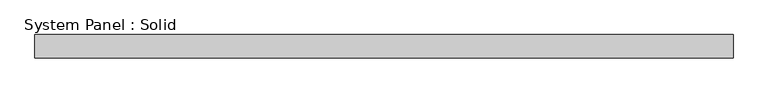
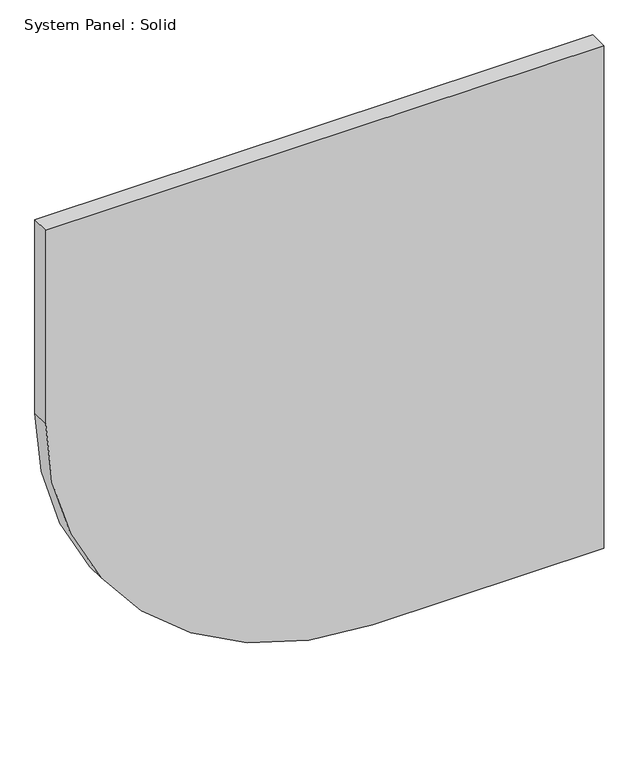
"""IFC4 building model written with IfcOpenShell, lengths in millimetres: plate geometry, System Panel : Solid."""

from ifc_helpers import new_model, si_unit, point, frame, frame_2d, origin, place, context, project, spatial, polyline, circle_curve, trimmed, segment, composite_curve, outline, extrude, source, transform, mapped, element, save


def system_panel_solid_5cfdd452(model_context):
    return source(origin(), model_context, "Body", "SweptSolid", [
        extrude(outline(composite_curve([segment(polyline([(0.0, 89.9999998), (0.0, 525.0000002), (1000.0, 525.0000002), (1000.0, -525.0000002), (615.0, -525.0000002)]), True, "CONTINUOUS"), segment(trimmed(circle_curve(frame_2d((615.0, 89.9999998)), 615.0), [point((615.0, -525.0000002))], [point((0.0, 89.9999998))], False, "CARTESIAN"), True, "CONTINUOUS")], self_intersect=False)), frame((0.0, -2.5, 0.0), z_axis=(0.0, 1.0, 0.0), x_axis=(0.0, 0.0, 1.0)), (0.0, 0.0, 1.0), 35.0),
    ])


if __name__ == "__main__":
    model = new_model("IFC4")
    model_context = context("Model", 3, world=origin())
    ifc_project = project(units=[si_unit("LENGTHUNIT", "METRE", prefix="MILLI")], contexts=[model_context])
    site = spatial("IfcSite", under=ifc_project)
    building = spatial("IfcBuilding", under=site)
    placement = place(None, origin())
    system_panel_solid_shape = system_panel_solid_5cfdd452(model_context)
    element("IfcPlate", 1, ObjectType="System Panel : Solid", at=placement, inside=building, context=model_context, shape_type="MappedRepresentation", body=[
        mapped(system_panel_solid_shape, transform((0.0, 0.0, 0.0), x_axis=(1.0, 0.0, 0.0), y_axis=(0.0, 1.0, 0.0), z_axis=(0.0, 0.0, 1.0))),
    ])
    save(model, "model.ifc")
